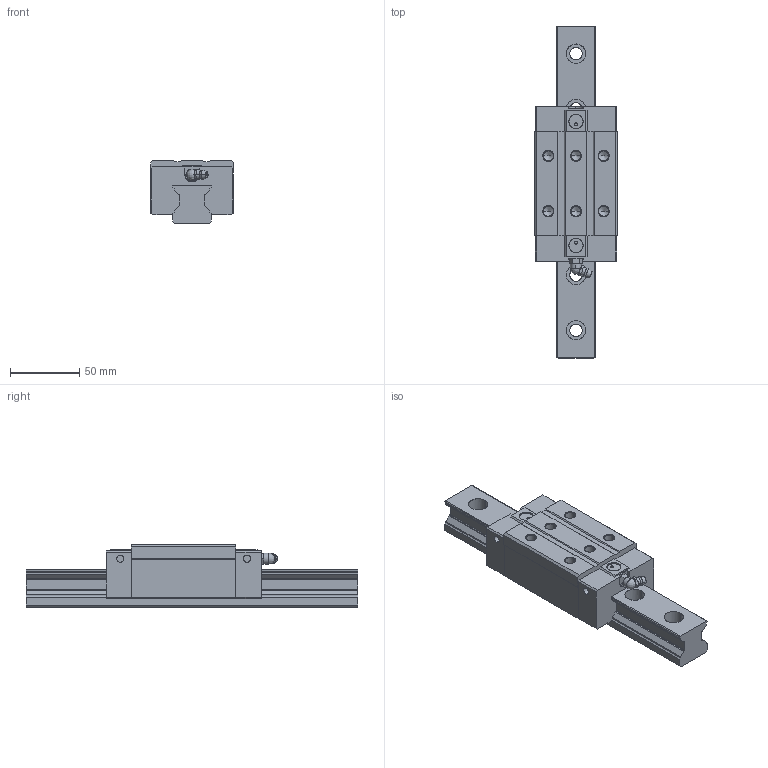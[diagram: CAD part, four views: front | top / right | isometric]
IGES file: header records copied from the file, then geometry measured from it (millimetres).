
Global section: file name:  ; native system: Kubotek KeyCreator V6.5.2 (0407); preprocessor: IGES 5.1; author:  ; organization:  ; date: 20100303.182214; units: millimetre
Bounding box: 60 x 240 x 45 mm (x, y, z)
Surface area: 66025.5 mm2 (no closed solid volume)
Topology: 0 solids, 0 shells, 248 faces, 1604 edges, 1590 vertices
Faces by surface type: bspline 248
